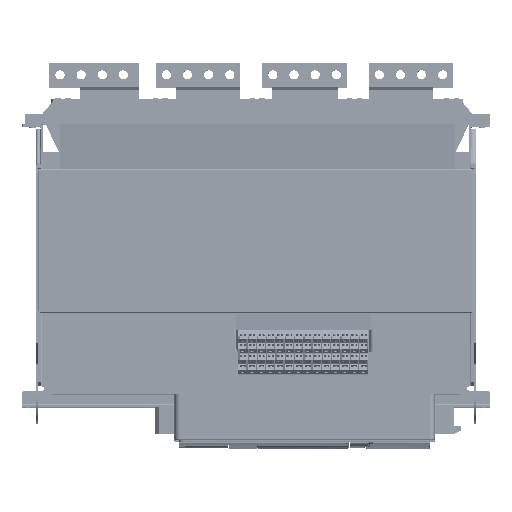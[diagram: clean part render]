
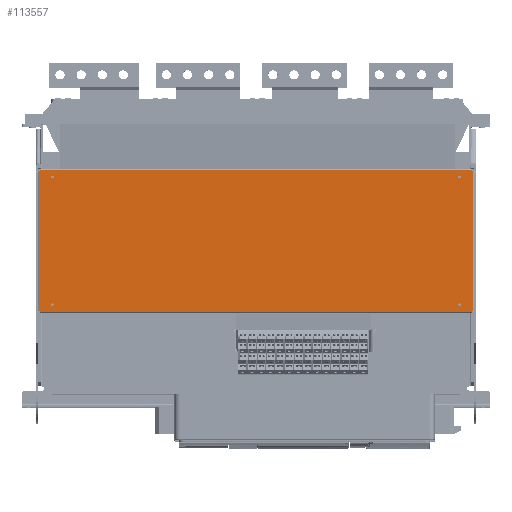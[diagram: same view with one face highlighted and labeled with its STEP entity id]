
A CAD part, top view. The second image highlights one B-rep face of the part: STEP entity #113557.
In plain terms, the highlighted planar face has unit normal (0, 0, 1) as drawn and (0, 0, -1) by its records, which use the part's own axes.
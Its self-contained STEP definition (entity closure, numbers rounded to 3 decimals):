
#5499=FACE_BOUND('',#15992,.T.);
#5500=FACE_BOUND('',#15993,.T.);
#5501=FACE_BOUND('',#15994,.T.);
#5502=FACE_BOUND('',#15995,.T.);
#9590=FACE_OUTER_BOUND('',#15991,.T.);
#15991=EDGE_LOOP('',(#93016,#93017,#93018,#93019,#93020,#93021,#93022,#93023,
#93024,#93025,#93026,#93027));
#15992=EDGE_LOOP('',(#93028));
#15993=EDGE_LOOP('',(#93029));
#15994=EDGE_LOOP('',(#93030));
#15995=EDGE_LOOP('',(#93031));
#20890=CIRCLE('',#122373,1.6);
#20891=CIRCLE('',#122374,1.6);
#20892=CIRCLE('',#122375,1.6);
#20893=CIRCLE('',#122376,1.6);
#29098=LINE('',#224887,#40947);
#29099=LINE('',#224889,#40948);
#29100=LINE('',#224891,#40949);
#29101=LINE('',#224893,#40950);
#29102=LINE('',#224895,#40951);
#29103=LINE('',#224897,#40952);
#29104=LINE('',#224899,#40953);
#29105=LINE('',#224901,#40954);
#29106=LINE('',#224903,#40955);
#29107=LINE('',#224905,#40956);
#29108=LINE('',#224907,#40957);
#29109=LINE('',#224908,#40958);
#40947=VECTOR('',#144786,512.);
#40948=VECTOR('',#144787,1.);
#40949=VECTOR('',#144788,1.);
#40950=VECTOR('',#144789,166.);
#40951=VECTOR('',#144790,1.);
#40952=VECTOR('',#144791,1.);
#40953=VECTOR('',#144792,512.);
#40954=VECTOR('',#144793,1.);
#40955=VECTOR('',#144794,1.);
#40956=VECTOR('',#144795,166.);
#40957=VECTOR('',#144796,1.);
#40958=VECTOR('',#144797,1.);
#52233=VERTEX_POINT('',#224885);
#52234=VERTEX_POINT('',#224886);
#52235=VERTEX_POINT('',#224888);
#52236=VERTEX_POINT('',#224890);
#52237=VERTEX_POINT('',#224892);
#52238=VERTEX_POINT('',#224894);
#52239=VERTEX_POINT('',#224896);
#52240=VERTEX_POINT('',#224898);
#52241=VERTEX_POINT('',#224900);
#52242=VERTEX_POINT('',#224902);
#52243=VERTEX_POINT('',#224904);
#52244=VERTEX_POINT('',#224906);
#52245=VERTEX_POINT('',#224909);
#52246=VERTEX_POINT('',#224911);
#52247=VERTEX_POINT('',#224913);
#52248=VERTEX_POINT('',#224915);
#66501=EDGE_CURVE('',#52233,#52234,#29098,.T.);
#66502=EDGE_CURVE('',#52234,#52235,#29099,.T.);
#66503=EDGE_CURVE('',#52236,#52235,#29100,.T.);
#66504=EDGE_CURVE('',#52236,#52237,#29101,.T.);
#66505=EDGE_CURVE('',#52237,#52238,#29102,.T.);
#66506=EDGE_CURVE('',#52239,#52238,#29103,.T.);
#66507=EDGE_CURVE('',#52239,#52240,#29104,.T.);
#66508=EDGE_CURVE('',#52240,#52241,#29105,.T.);
#66509=EDGE_CURVE('',#52242,#52241,#29106,.T.);
#66510=EDGE_CURVE('',#52242,#52243,#29107,.T.);
#66511=EDGE_CURVE('',#52243,#52244,#29108,.T.);
#66512=EDGE_CURVE('',#52233,#52244,#29109,.T.);
#66513=EDGE_CURVE('',#52245,#52245,#20890,.T.);
#66514=EDGE_CURVE('',#52246,#52246,#20891,.T.);
#66515=EDGE_CURVE('',#52247,#52247,#20892,.T.);
#66516=EDGE_CURVE('',#52248,#52248,#20893,.T.);
#93016=ORIENTED_EDGE('',*,*,#66501,.T.);
#93017=ORIENTED_EDGE('',*,*,#66502,.T.);
#93018=ORIENTED_EDGE('',*,*,#66503,.F.);
#93019=ORIENTED_EDGE('',*,*,#66504,.T.);
#93020=ORIENTED_EDGE('',*,*,#66505,.T.);
#93021=ORIENTED_EDGE('',*,*,#66506,.F.);
#93022=ORIENTED_EDGE('',*,*,#66507,.T.);
#93023=ORIENTED_EDGE('',*,*,#66508,.T.);
#93024=ORIENTED_EDGE('',*,*,#66509,.F.);
#93025=ORIENTED_EDGE('',*,*,#66510,.T.);
#93026=ORIENTED_EDGE('',*,*,#66511,.T.);
#93027=ORIENTED_EDGE('',*,*,#66512,.F.);
#93028=ORIENTED_EDGE('',*,*,#66513,.F.);
#93029=ORIENTED_EDGE('',*,*,#66514,.F.);
#93030=ORIENTED_EDGE('',*,*,#66515,.F.);
#93031=ORIENTED_EDGE('',*,*,#66516,.F.);
#108167=PLANE('',#122372);
#113557=ADVANCED_FACE('',(#9590,#5499,#5500,#5501,#5502),#108167,.F.);
#122372=AXIS2_PLACEMENT_3D('',#224884,#144784,#144785);
#122373=AXIS2_PLACEMENT_3D('',#224910,#144798,#144799);
#122374=AXIS2_PLACEMENT_3D('',#224912,#144800,#144801);
#122375=AXIS2_PLACEMENT_3D('',#224914,#144802,#144803);
#122376=AXIS2_PLACEMENT_3D('',#224916,#144804,#144805);
#144784=DIRECTION('center_axis',(0.,0.,1.));
#144785=DIRECTION('ref_axis',(1.,0.,0.));
#144786=DIRECTION('',(-1.,0.,0.));
#144787=DIRECTION('',(0.,1.,0.));
#144788=DIRECTION('',(1.,0.,0.));
#144789=DIRECTION('',(0.,1.,0.));
#144790=DIRECTION('',(1.,0.,0.));
#144791=DIRECTION('',(0.,-1.,0.));
#144792=DIRECTION('',(1.,0.,0.));
#144793=DIRECTION('',(0.,-1.,0.));
#144794=DIRECTION('',(-1.,0.,0.));
#144795=DIRECTION('',(0.,-1.,0.));
#144796=DIRECTION('',(-1.,0.,0.));
#144797=DIRECTION('',(0.,1.,0.));
#144798=DIRECTION('center_axis',(0.,0.,-1.));
#144799=DIRECTION('ref_axis',(-1.,0.,0.));
#144800=DIRECTION('center_axis',(0.,0.,-1.));
#144801=DIRECTION('ref_axis',(-1.,0.,0.));
#144802=DIRECTION('center_axis',(0.,0.,-1.));
#144803=DIRECTION('ref_axis',(-1.,0.,0.));
#144804=DIRECTION('center_axis',(0.,0.,-1.));
#144805=DIRECTION('ref_axis',(-1.,0.,0.));
#224884=CARTESIAN_POINT('Origin',(0.,0.,0.));
#224885=CARTESIAN_POINT('',(256.,-84.,0.));
#224886=CARTESIAN_POINT('',(-256.,-84.,0.));
#224887=CARTESIAN_POINT('',(256.,-84.,0.));
#224888=CARTESIAN_POINT('',(-256.,-83.,0.));
#224889=CARTESIAN_POINT('',(-256.,-84.,0.));
#224890=CARTESIAN_POINT('',(-257.,-83.,0.));
#224891=CARTESIAN_POINT('',(-257.,-83.,0.));
#224892=CARTESIAN_POINT('',(-257.,83.,0.));
#224893=CARTESIAN_POINT('',(-257.,-83.,0.));
#224894=CARTESIAN_POINT('',(-256.,83.,0.));
#224895=CARTESIAN_POINT('',(-257.,83.,0.));
#224896=CARTESIAN_POINT('',(-256.,84.,0.));
#224897=CARTESIAN_POINT('',(-256.,84.,0.));
#224898=CARTESIAN_POINT('',(256.,84.,0.));
#224899=CARTESIAN_POINT('',(-256.,84.,0.));
#224900=CARTESIAN_POINT('',(256.,83.,0.));
#224901=CARTESIAN_POINT('',(256.,84.,0.));
#224902=CARTESIAN_POINT('',(257.,83.,0.));
#224903=CARTESIAN_POINT('',(257.,83.,0.));
#224904=CARTESIAN_POINT('',(257.,-83.,0.));
#224905=CARTESIAN_POINT('',(257.,83.,0.));
#224906=CARTESIAN_POINT('',(256.,-83.,0.));
#224907=CARTESIAN_POINT('',(257.,-83.,0.));
#224908=CARTESIAN_POINT('',(256.,-84.,0.));
#224909=CARTESIAN_POINT('',(-242.6,75.5,0.));
#224910=CARTESIAN_POINT('Origin',(-241.,75.5,0.));
#224911=CARTESIAN_POINT('',(239.4,75.5,0.));
#224912=CARTESIAN_POINT('Origin',(241.,75.5,0.));
#224913=CARTESIAN_POINT('',(239.4,-75.5,0.));
#224914=CARTESIAN_POINT('Origin',(241.,-75.5,0.));
#224915=CARTESIAN_POINT('',(-242.6,-75.5,0.));
#224916=CARTESIAN_POINT('Origin',(-241.,-75.5,0.));
